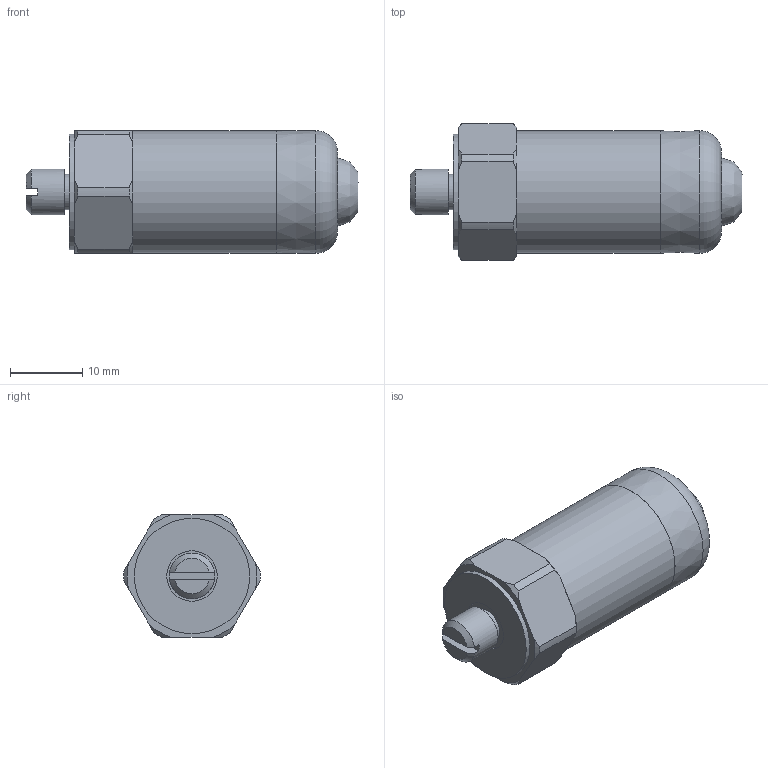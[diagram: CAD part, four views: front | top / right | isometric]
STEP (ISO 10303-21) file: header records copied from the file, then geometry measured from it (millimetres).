
FILE_DESCRIPTION(/* description */ (''),/* implementation_level */ '2;1');
FILE_NAME(/* name */ 'Z:\Engineering\Drawings\3D Library\Assemblies\Website\Premium Top\Compact\HS-170 Top Braided\HS-1700100202.stp',/* time_stamp */ '2023-03-16T16:50:38+00:00',/* author */ ('Ricardo.Peneda'),/* organization */ (''),/* preprocessor_version */ 'ST-DEVELOPER v18.1',/* originating_system */ 'Autodesk Inventor 2021',/* authorisation */ '');
FILE_SCHEMA (('AUTOMOTIVE_DESIGN { 1 0 10303 214 3 1 1 }'));
Length unit declared in the file: inch
Products named in the file (1): HS-1700100202_Shrinkwrap_1
Bounding box: 46.05 x 19 x 17.01 mm (x, y, z)
Volume: 4645.8 mm3; surface area: 4720 mm2
Topology: 3 solids, 3 shells, 79 faces, 212 edges, 144 vertices
Faces by surface type: plane 31, cone 30, cylinder 16, torus 1, bspline 1
Full cylindrical faces by diameter (mm): 4.914 x2, 5.359 x1, 6.34 x2, 7 x1, 7.027 x1, 15.05 x1, 16 x1, 17 x1
Entity records: 2648 total; most frequent: CARTESIAN_POINT 525, DIRECTION 446, ORIENTED_EDGE 422, EDGE_CURVE 211, AXIS2_PLACEMENT_3D 188, VERTEX_POINT 144, CIRCLE 109, EDGE_LOOP 87
